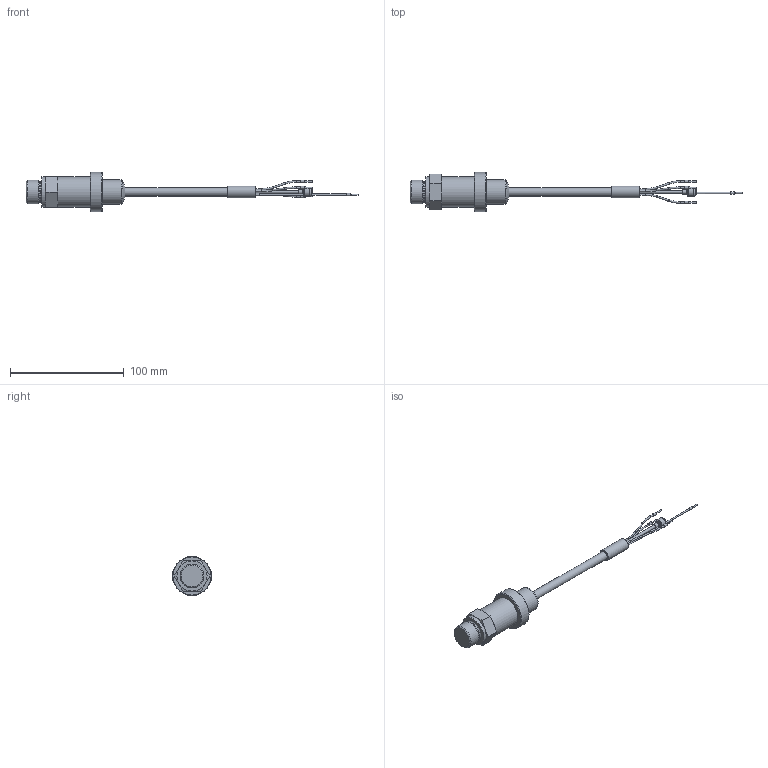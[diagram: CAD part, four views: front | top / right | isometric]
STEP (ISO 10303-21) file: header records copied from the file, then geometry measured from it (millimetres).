
FILE_DESCRIPTION(/* description */ (''),/* implementation_level */ '2;1');
FILE_NAME(/* name */ 'C:\Users\cz1382\Desktop\DMP331-11x-xxxx-x-x-TR0-100-x-000.stp',/* time_stamp */ '2021-03-11T14:24:46+01:00',/* author */ ('Borýsek'),/* organization */ (''),/* preprocessor_version */ 'ST-DEVELOPER v16.5',/* originating_system */ 'Autodesk Inventor 2017',/* authorisation */ '');
FILE_SCHEMA (('AUTOMOTIVE_DESIGN { 1 0 10303 214 3 1 1 }'));
Length unit declared in the file: millimetre
Products named in the file (1): DMP331-11x-xxxx-x-x-TR0-100-x-000
Bounding box: 292.25 x 34.5 x 34.5 mm (x, y, z)
Volume: 52356.8 mm3; surface area: 13477.9 mm2
Topology: 1 solids, 1 shells, 83 faces, 167 edges, 100 vertices
Faces by surface type: cylinder 32, plane 24, torus 14, cone 13
Full cylindrical faces by diameter (mm): 1.1 x4, 1.4 x9, 1.45 x2, 2.1 x1, 2.2 x4, 2.5 x1, 7.4 x1, 7.536 x1, 10.2 x1, 18.4 x1, 20.955 x1, 21.4 x1, 26.5 x2, 34.5 x1
Entity records: 2066 total; most frequent: CARTESIAN_POINT 404, DIRECTION 330, ORIENTED_EDGE 216, AXIS2_PLACEMENT_3D 160, EDGE_LOOP 152, EDGE_CURVE 108, VERTEX_POINT 94, FACE_OUTER_BOUND 83
